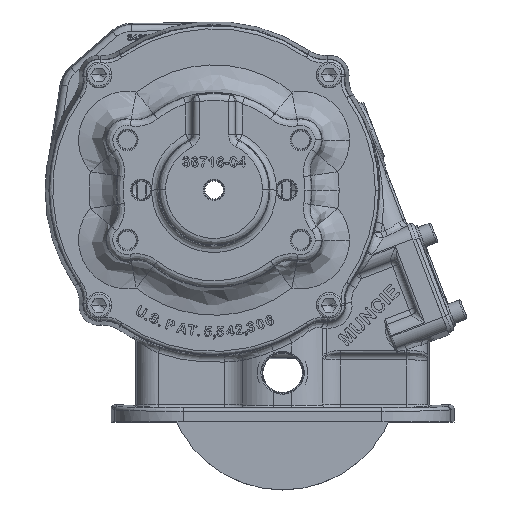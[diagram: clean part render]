
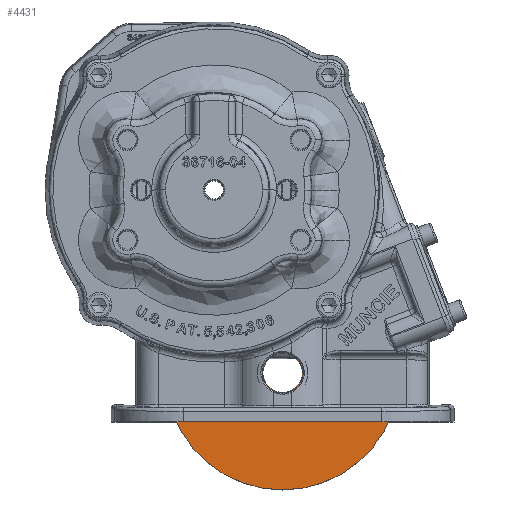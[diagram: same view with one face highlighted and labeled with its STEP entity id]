
A CAD part, top view. The second image highlights one B-rep face of the part: STEP entity #4431.
In plain terms, the highlighted planar face has unit normal (0, 0, 1).
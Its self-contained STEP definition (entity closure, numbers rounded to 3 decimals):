
#4431 = ADVANCED_FACE ( 'NONE', ( #93385, #93388 ), #97529, .F. ) ;
#22164 = CARTESIAN_POINT ( 'NONE',  ( 7.552, -46.328, 43.747 ) ) ;
#22168 = CARTESIAN_POINT ( 'NONE',  ( 7.552, -28.066, 43.747 ) ) ;
#30563 = CARTESIAN_POINT ( 'NONE',  ( 7.552, 17.032, 43.747 ) ) ;
#30565 = CARTESIAN_POINT ( 'NONE',  ( 7.552, -91.426, 43.747 ) ) ;
#35386 = EDGE_CURVE ( 'NONE', #49804, #49805, #145705, .T. ) ;
#35399 = EDGE_CURVE ( 'NONE', #49830, #49831, #145724, .T. ) ;
#35403 = EDGE_CURVE ( 'NONE', #49831, #49830, #145731, .T. ) ;
#35404 = EDGE_CURVE ( 'NONE', #49805, #49804, #145732, .T. ) ;
#48740 = AXIS2_PLACEMENT_3D ( 'NONE', #97491, #97536, #97540 ) ;
#49220 = EDGE_LOOP ( 'NONE', ( #115782, #115783 ) ) ;
#49223 = EDGE_LOOP ( 'NONE', ( #115780, #115781 ) ) ;
#49804 = VERTEX_POINT ( 'NONE', #22164 ) ;
#49805 = VERTEX_POINT ( 'NONE', #22168 ) ;
#49830 = VERTEX_POINT ( 'NONE', #30563 ) ;
#49831 = VERTEX_POINT ( 'NONE', #30565 ) ;
#92707 = AXIS2_PLACEMENT_3D ( 'NONE', #147892, #147893, #147894 ) ;
#92714 = AXIS2_PLACEMENT_3D ( 'NONE', #147925, #147926, #147927 ) ;
#92717 = AXIS2_PLACEMENT_3D ( 'NONE', #147938, #147940, #147941 ) ;
#92718 = AXIS2_PLACEMENT_3D ( 'NONE', #147942, #147943, #147944 ) ;
#93385 = FACE_BOUND ( 'NONE', #49223, .T. ) ;
#93388 = FACE_OUTER_BOUND ( 'NONE', #49220, .T. ) ;
#97491 = CARTESIAN_POINT ( 'NONE',  ( 7.552, -37.197, 43.747 ) ) ;
#97529 = PLANE ( 'NONE',  #48740 ) ;
#97536 = DIRECTION ( 'NONE',  ( 0., 0., -1. ) ) ;
#97540 = DIRECTION ( 'NONE',  ( 0., 1., 0. ) ) ;
#115780 = ORIENTED_EDGE ( 'NONE', *, *, #35404, .T. ) ;
#115781 = ORIENTED_EDGE ( 'NONE', *, *, #35386, .T. ) ;
#115782 = ORIENTED_EDGE ( 'NONE', *, *, #35403, .F. ) ;
#115783 = ORIENTED_EDGE ( 'NONE', *, *, #35399, .F. ) ;
#145705 = CIRCLE ( 'NONE', #92707, 9.131 ) ;
#145724 = CIRCLE ( 'NONE', #92714, 54.229 ) ;
#145731 = CIRCLE ( 'NONE', #92717, 54.229 ) ;
#145732 = CIRCLE ( 'NONE', #92718, 9.131 ) ;
#147892 = CARTESIAN_POINT ( 'NONE',  ( 7.552, -37.197, 43.747 ) ) ;
#147893 = DIRECTION ( 'NONE',  ( 0., 0., -1. ) ) ;
#147894 = DIRECTION ( 'NONE',  ( 0., 1., 0. ) ) ;
#147925 = CARTESIAN_POINT ( 'NONE',  ( 7.552, -37.197, 43.747 ) ) ;
#147926 = DIRECTION ( 'NONE',  ( 0., 0., -1. ) ) ;
#147927 = DIRECTION ( 'NONE',  ( 0., 1., 0. ) ) ;
#147938 = CARTESIAN_POINT ( 'NONE',  ( 7.552, -37.197, 43.747 ) ) ;
#147940 = DIRECTION ( 'NONE',  ( 0., 0., -1. ) ) ;
#147941 = DIRECTION ( 'NONE',  ( 0., 1., 0. ) ) ;
#147942 = CARTESIAN_POINT ( 'NONE',  ( 7.552, -37.197, 43.747 ) ) ;
#147943 = DIRECTION ( 'NONE',  ( 0., 0., -1. ) ) ;
#147944 = DIRECTION ( 'NONE',  ( 0., 1., 0. ) ) ;
